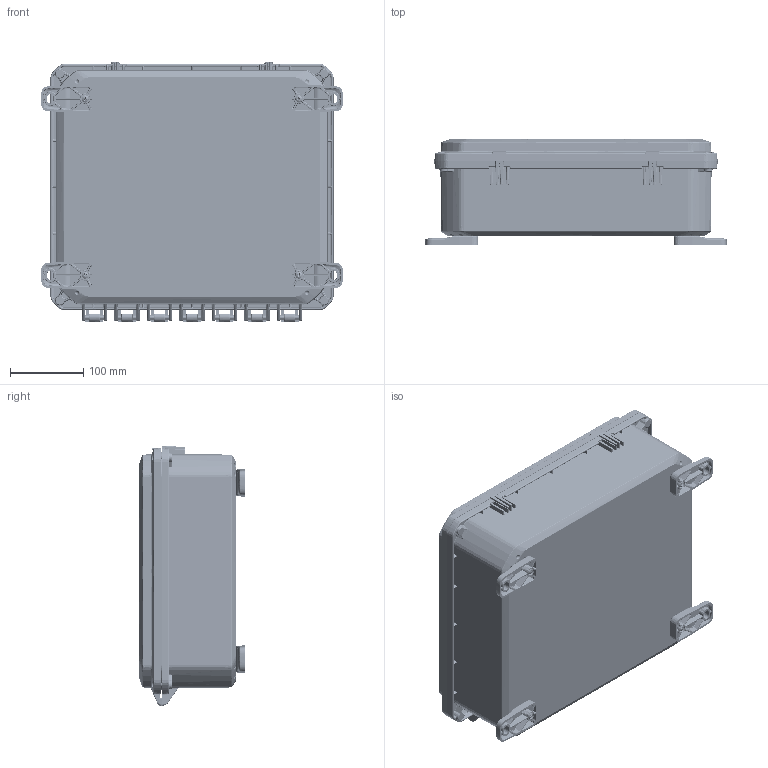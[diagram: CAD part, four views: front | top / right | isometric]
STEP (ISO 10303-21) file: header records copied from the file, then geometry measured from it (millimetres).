
FILE_DESCRIPTION (( 'STEP AP214' ), '1' );
FILE_NAME ('ZH-141204-37.STEP', '2024-10-25T19:25:28', ( '' ), ( '' ), 'SwSTEP 2.0', 'SolidWorks 2024', '' );
FILE_SCHEMA (( 'AUTOMOTIVE_DESIGN' ));
Length unit declared in the file: inch
Products named in the file (11): LABEL-104; Z_-14121C_ZH-14121C-02; ZH-141204-37; SCREWS-046_SCREWS-046; Z_-14124B_ZH-14124B-01; SCREWS-047_default; ZH-1412G; INSERTS-4; ZH-01F_ZH-01F-01; Z_-14121CG_ZH-14121CG-02; Z_-14124BI_ZH-14124BI-01
Assembly tree (30 placements, depth 3):
  ZH-141204-37
    Z_-14124BI_ZH-14124BI-01
      Z_-14124B_ZH-14124B-01
      INSERTS-4  x12
      LABEL-104
    Z_-14121CG_ZH-14121CG-02
      Z_-14121C_ZH-14121C-02
      ZH-1412G
    ZH-01F_ZH-01F-01  x4
    SCREWS-046_SCREWS-046  x4
    SCREWS-047_default  x4
Bounding box: 412.75 x 145.34 x 355.47 mm (x, y, z)
Volume: 2153851.5 mm3; surface area: 1033960.1 mm2
Topology: 28 solids, 28 shells, 9375 faces, 22997 edges, 13576 vertices
Faces by surface type: bspline 3059, cylinder 2226, plane 1778, cone 1368, torus 904, sphere 40
Entity records: 307793 total; most frequent: CARTESIAN_POINT 177089, ORIENTED_EDGE 30600, DIRECTION 23683, EDGE_CURVE 15300, AXIS2_PLACEMENT_3D 9701, VERTEX_POINT 8969, EDGE_LOOP 6649, FACE_OUTER_BOUND 6476
